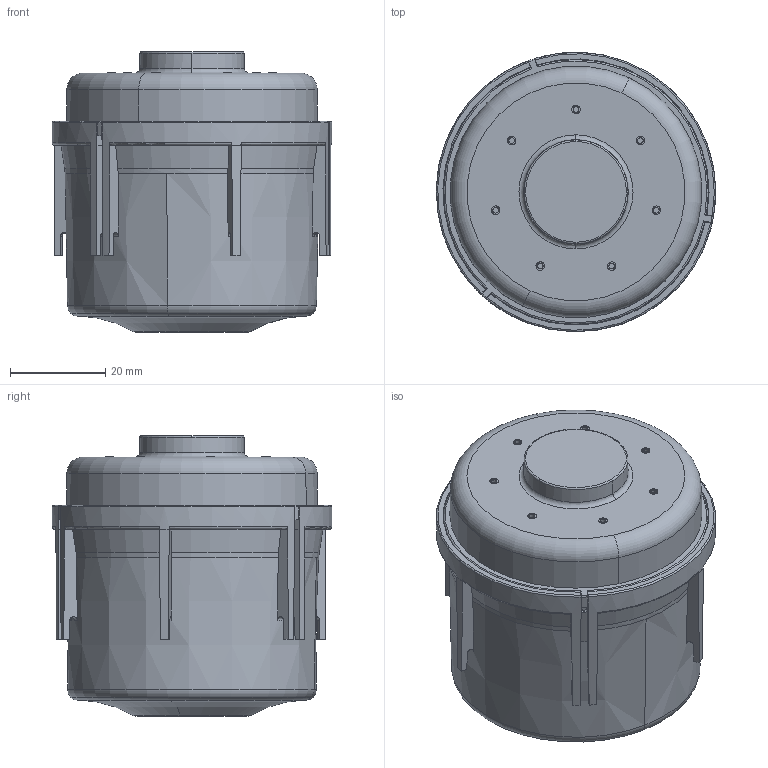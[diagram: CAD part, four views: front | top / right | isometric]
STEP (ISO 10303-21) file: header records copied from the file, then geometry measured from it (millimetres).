
FILE_DESCRIPTION((''),'2;1');
FILE_NAME('005_23_1_1_18','2026-07-21T14:44:20',('pc'),(''),'CREO PARAMETRIC BY PTC INC, 2018050','CREO PARAMETRIC BY PTC INC, 2018050','');
FILE_SCHEMA(('CONFIG_CONTROL_DESIGN','GEOMETRIC_VALIDATION_PROPERTIES_MIM'));
Length unit declared in the file: millimetre
Products named in the file (1): 005_23_1_1_18
Bounding box: 58.7 x 58.67 x 58.94 mm (x, y, z)
Volume: 117277.4 mm3; surface area: 20673.3 mm2
Topology: 1 solids, 1 shells, 250 faces, 736 edges, 500 vertices
Faces by surface type: plane 104, cylinder 64, torus 53, cone 29
Entity records: 12682 total; most frequent: CARTESIAN_POINT 2304, ORIENTED_EDGE 1472, DIRECTION 1356, PRESENTATION_STYLE_ASSIGNMENT 848, STYLED_ITEM 737, CURVE_STYLE 736, EDGE_CURVE 736, AXIS2_PLACEMENT_3D 552
